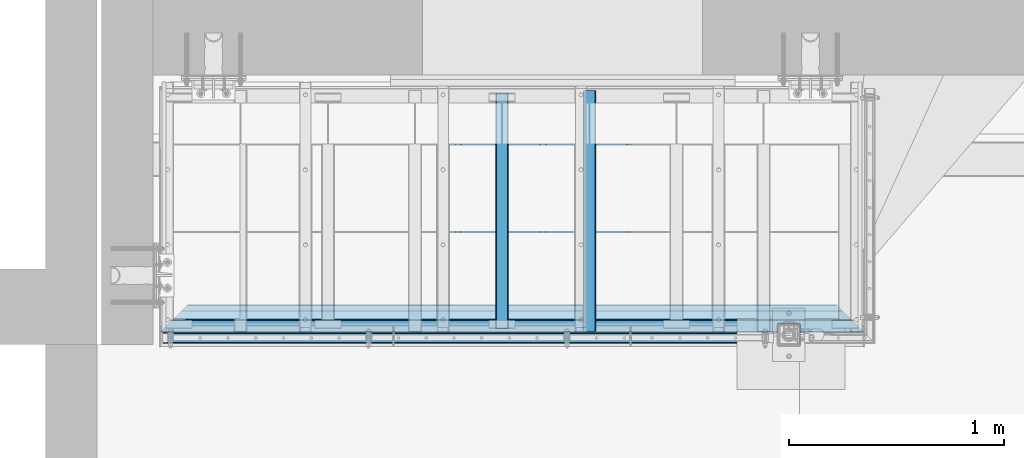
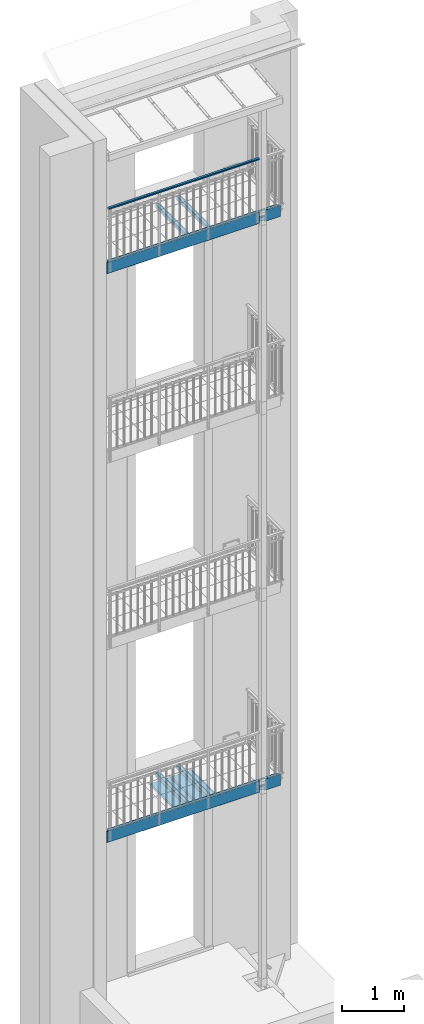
# One storey, part 41 of 162: 9 beams, 28 openings.
"""IFC2X3 building model written with IfcOpenShell, lengths in millimetres."""

from ifc_helpers import new_model, entity, si_unit, converted_unit, point, frame, frame_2d, origin, origin_with_axes, origin_2d, place, context, project, spatial, polyline, circle_curve, line_curve, trimmed, segment, composite_curve, hollow_rectangle, circle, outline, extrude, clip, halfspace, material, element, save


model = new_model("IFC2X3")

# Units and contexts
model_context = context("Model", 3, precision=1e-09, world=origin_with_axes())
ifc_project = project(units=[si_unit("LENGTHUNIT", "METRE", prefix="MILLI"), si_unit("AREAUNIT", "SQUARE_METRE"), si_unit("VOLUMEUNIT", "CUBIC_METRE"), converted_unit("PLANEANGLEUNIT", "DEGREE", entity("IfcPlaneAngleMeasure", 0.01745329), si_unit("PLANEANGLEUNIT", "RADIAN"), dimensions=[0, 0, 0, 0, 0, 0, 0])], contexts=[model_context])

# Site, building, storey
site_placement = place(None, origin_with_axes())
site = spatial("IfcSite", under=ifc_project, at=site_placement, Name="Hermannstra?e 1a, 60318 Frankfurt", CompositionType="ELEMENT")
building_placement = place(site_placement, origin_with_axes())
building = spatial("IfcBuilding", under=site, at=building_placement, Name="Struktur 1", CompositionType="ELEMENT")
storey_placement = place(building_placement, origin_with_axes())
storey = spatial("IfcBuildingStorey", under=building, at=storey_placement, Name="Default Storey", CompositionType="ELEMENT", Elevation=0.0)

# Beam, openings
ifc_material_1 = material(Name="S235JR")
beam_1_placement = place(None, frame((2568.31036482, 1515.609373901, 16321.999), z_axis=(-1.0, 0.0, 0.0), x_axis=(0.0, 0.0, -1.0)))
beam_1 = element("IfcBeam", 1, at=beam_1_placement, inside=storey, material=ifc_material_1, Name="-", ObjectType="-", context=model_context, shape_type="SweptSolid", body=[
    extrude(hollow_rectangle(XDim=30.0, YDim=50.0, WallThickness=3.0, InnerFilletRadius=3.0, OuterFilletRadius=6.0, at=origin_2d()), origin(), (0.0, 0.0, -1.0), 2829.999),
])
opening_1_placement = place(beam_1_placement, frame((11.5, 0.0, -29.998), z_axis=(-1.0, 0.0, 0.0), x_axis=(0.0, -1.0, 0.0)))
element("IfcOpeningElement", 2, at=opening_1_placement, cuts=beam_1, ObjectType="Opening", context=model_context, shape_type="SweptSolid", body=[
    extrude(circle(Radius=5.001, at=frame_2d((0.0, -5.001), x_axis=(1.0, 0.0))), origin(), (0.0, 0.0, -1.0), 4.0),
])
opening_2_placement = place(beam_1_placement, frame((11.5, 0.0, -949.998), z_axis=(-1.0, 0.0, 0.0), x_axis=(0.0, -1.0, 0.0)))
element("IfcOpeningElement", 3, at=opening_2_placement, cuts=beam_1, ObjectType="Opening", context=model_context, shape_type="SweptSolid", body=[
    extrude(circle(Radius=5.001, at=frame_2d((0.0, -5.001), x_axis=(1.0, 0.0))), origin(), (0.0, 0.0, -1.0), 4.0),
])
opening_3_placement = place(beam_1_placement, frame((11.5, 0.0, -1869.998), z_axis=(-1.0, 0.0, 0.0), x_axis=(0.0, -1.0, 0.0)))
element("IfcOpeningElement", 4, at=opening_3_placement, cuts=beam_1, ObjectType="Opening", context=model_context, shape_type="SweptSolid", body=[
    extrude(circle(Radius=5.001, at=frame_2d((0.0, -5.001), x_axis=(1.0, 0.0))), origin(), (0.0, 0.0, -1.0), 4.0),
])
opening_4_placement = place(beam_1_placement, frame((11.5, 0.0, -2789.998), z_axis=(-1.0, 0.0, 0.0), x_axis=(0.0, -1.0, 0.0)))
element("IfcOpeningElement", 5, at=opening_4_placement, cuts=beam_1, ObjectType="Opening", context=model_context, shape_type="SweptSolid", body=[
    extrude(circle(Radius=5.001, at=frame_2d((0.0, -5.001), x_axis=(1.0, 0.0))), origin(), (0.0, 0.0, -1.0), 4.0),
])

ifc_material_2 = material(Name="S355JR")
beam_2_placement = place(None, frame((2176.002127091, 1605.609373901, 15121.999), z_axis=(1.0, 0.0, 0.0), x_axis=(0.0, 1.0, 0.0)))
beam_2 = element("IfcBeam", 6, at=beam_2_placement, inside=storey, material=ifc_material_2, Name="-", ObjectType="-", context=model_context, shape_type="Clipping", body=[
    clip(clip(extrude(outline(composite_curve([segment(trimmed(circle_curve(frame_2d((57.999999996, -107.999999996), x_axis=(1.0, 0.0)), 7.000000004), [point((58.0, -115.0))], [point((65.0, -108.0))], True, "CARTESIAN"), True, "CONTINUOUS"), segment(trimmed(line_curve((65.0, -108.0), (0.0, 1.0), 31.0), [point((65.0, -108.0))], [point((65.0, -77.0))], True, "CARTESIAN"), True, "CONTINUOUS"), segment(trimmed(circle_curve(frame_2d((57.999999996, -77.000000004), x_axis=(1.0, 0.0)), 7.000000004), [point((65.0, -77.0))], [point((58.0, -70.0))], True, "CARTESIAN"), True, "CONTINUOUS"), segment(trimmed(line_curve((58.0, -70.0), (-1.0, 0.0), 23.0), [point((58.0, -70.0))], [point((35.0, -70.0))], True, "CARTESIAN"), True, "CONTINUOUS"), segment(trimmed(line_curve((35.0, -70.0), (0.0, -1.0), 4.0), [point((35.0, -70.0))], [point((35.0, -74.0))], True, "CARTESIAN"), True, "CONTINUOUS"), segment(trimmed(line_curve((35.0, -74.0), (1.0, 0.0), 23.0), [point((35.0, -74.0))], [point((58.0, -74.0))], True, "CARTESIAN"), True, "CONTINUOUS"), segment(trimmed(circle_curve(frame_2d((57.999999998, -77.000000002), x_axis=(-1.0, 0.0)), 3.000000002), [point((58.0, -74.0))], [point((61.0, -77.0))], False, "CARTESIAN"), True, "CONTINUOUS"), segment(trimmed(line_curve((61.0, -77.0), (0.0, -1.0), 31.0), [point((61.0, -77.0))], [point((61.0, -108.0))], True, "CARTESIAN"), True, "CONTINUOUS"), segment(trimmed(circle_curve(frame_2d((57.999999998, -107.999999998), x_axis=(-1.0, 0.0)), 3.000000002), [point((61.0, -108.0))], [point((58.0, -111.0))], False, "CARTESIAN"), True, "CONTINUOUS"), segment(trimmed(line_curve((58.0, -111.0), (-1.0, 0.0), 116.0), [point((58.0, -111.0))], [point((-58.0, -111.0))], True, "CARTESIAN"), True, "CONTINUOUS"), segment(trimmed(circle_curve(frame_2d((-57.999999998, -107.999999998), x_axis=(-1.0, 0.0)), 3.000000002), [point((-58.0, -111.0))], [point((-61.0, -108.0))], False, "CARTESIAN"), True, "CONTINUOUS"), segment(trimmed(line_curve((-61.0, -108.0), (0.0, 1.0), 216.0), [point((-61.0, -108.0))], [point((-61.0, 108.0))], True, "CARTESIAN"), True, "CONTINUOUS"), segment(trimmed(circle_curve(frame_2d((-57.999999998, 107.999999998), x_axis=(-1.0, 0.0)), 3.000000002), [point((-61.0, 108.0))], [point((-58.0, 111.0))], False, "CARTESIAN"), True, "CONTINUOUS"), segment(trimmed(line_curve((-58.0, 111.0), (1.0, 0.0), 46.0), [point((-58.0, 111.0))], [point((-12.0, 111.0))], True, "CARTESIAN"), True, "CONTINUOUS"), segment(trimmed(circle_curve(frame_2d((-12.000000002, 107.999999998), x_axis=(-1.0, 0.0)), 3.000000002), [point((-12.0, 111.0))], [point((-9.0, 108.0))], False, "CARTESIAN"), True, "CONTINUOUS"), segment(trimmed(line_curve((-9.0, 108.0), (0.0, -1.0), 33.0), [point((-9.0, 108.0))], [point((-9.0, 75.0))], True, "CARTESIAN"), True, "CONTINUOUS"), segment(trimmed(line_curve((-9.0, 75.0), (1.0, 0.0), 4.0), [point((-9.0, 75.0))], [point((-5.0, 75.0))], True, "CARTESIAN"), True, "CONTINUOUS"), segment(trimmed(line_curve((-5.0, 75.0), (0.0, 1.0), 33.0), [point((-5.0, 75.0))], [point((-5.0, 108.0))], True, "CARTESIAN"), True, "CONTINUOUS"), segment(trimmed(circle_curve(frame_2d((-12.000000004, 107.999999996), x_axis=(1.0, 0.0)), 7.000000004), [point((-5.0, 108.0))], [point((-12.0, 115.0))], True, "CARTESIAN"), True, "CONTINUOUS"), segment(trimmed(line_curve((-12.0, 115.0), (-1.0, 0.0), 46.0), [point((-12.0, 115.0))], [point((-58.0, 115.0))], True, "CARTESIAN"), True, "CONTINUOUS"), segment(trimmed(circle_curve(frame_2d((-57.999999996, 107.999999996), x_axis=(1.0, 0.0)), 7.000000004), [point((-58.0, 115.0))], [point((-65.0, 108.0))], True, "CARTESIAN"), True, "CONTINUOUS"), segment(trimmed(line_curve((-65.0, 108.0), (0.0, -1.0), 216.0), [point((-65.0, 108.0))], [point((-65.0, -108.0))], True, "CARTESIAN"), True, "CONTINUOUS"), segment(trimmed(circle_curve(frame_2d((-57.999999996, -107.999999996), x_axis=(1.0, 0.0)), 7.000000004), [point((-65.0, -108.0))], [point((-58.0, -115.0))], True, "CARTESIAN"), True, "CONTINUOUS"), segment(trimmed(line_curve((-58.0, -115.0), (1.0, 0.0), 116.0), [point((-58.0, -115.0))], [point((58.0, -115.0))], True, "CARTESIAN"), True, "CONTINUOUS")], self_intersect=False)), origin(), (0.0, 0.0, 1.0), 4024.614475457), halfspace(frame((-2111.960076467, -15121.999, -1669.651424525), z_axis=(-0.707106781, 0.0, 0.707106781), x_axis=(0.707106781, 0.0, 0.707106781)), True)), halfspace(frame((2076.349288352, -15121.999, 1505.956535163), z_axis=(-0.707106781, 0.0, -0.707106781), x_axis=(-0.707106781, 0.0, 0.707106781)), True)),
])
opening_5_placement = place(beam_2_placement, frame((-75.214581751, 215.1, 3643.306237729), z_axis=(0.0, 1.0, 0.0), x_axis=(0.0, 0.0, 1.0)))
element("IfcOpeningElement", 7, at=opening_5_placement, cuts=beam_2, ObjectType="Opening", context=model_context, shape_type="SweptSolid", body=[
    extrude(outline(polyline([(0.0, 0.0), (13.514993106, 0.0), (13.514993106, 17.024041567), (0.0, 17.024041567), (0.0, 0.0)])), origin(), (0.0, 0.0, -1.0), 430.2),
])
opening_6_placement = place(beam_2_placement, frame((-119.001, 215.1, 3246.306237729), z_axis=(0.0, 1.0, 0.0), x_axis=(-0.707106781, 0.0, 0.707106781)))
element("IfcOpeningElement", 8, at=opening_6_placement, cuts=beam_2, ObjectType="Opening", context=model_context, shape_type="SweptSolid", body=[
    extrude(outline(composite_curve([segment(trimmed(circle_curve(frame_2d((4.949747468, 4.949747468), x_axis=(1.0, 0.0)), 7.0), [point((0.0, 0.0))], [point((9.899494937, 0.0))], True, "CARTESIAN"), True, "CONTINUOUS"), segment(trimmed(line_curve((9.899494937, 0.0), (0.707106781, 0.707106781), 88.0), [point((9.899494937, 0.0))], [point((72.124891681, 62.225396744))], True, "CARTESIAN"), True, "CONTINUOUS"), segment(trimmed(circle_curve(frame_2d((67.175144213, 67.175144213), x_axis=(1.0, 0.0)), 7.0), [point((72.124891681, 62.225396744))], [point((72.124891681, 72.124891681))], True, "CARTESIAN"), True, "CONTINUOUS"), segment(trimmed(line_curve((72.124891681, 72.124891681), (-0.707106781, 0.707106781), 88.002), [point((72.124891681, 72.124891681))], [point((9.898080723, 134.351702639))], True, "CARTESIAN"), True, "CONTINUOUS"), segment(trimmed(circle_curve(frame_2d((4.948333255, 129.401955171), x_axis=(1.0, 0.0)), 7.0), [point((9.898080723, 134.351702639))], [point((-0.001414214, 134.351702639))], True, "CARTESIAN"), True, "CONTINUOUS"), segment(trimmed(line_curve((-0.001414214, 134.351702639), (-0.707106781, -0.707106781), 88.0), [point((-0.001414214, 134.351702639))], [point((-62.226810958, 72.126305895))], True, "CARTESIAN"), True, "CONTINUOUS"), segment(trimmed(circle_curve(frame_2d((-57.27706349, 67.176558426), x_axis=(1.0, 0.0)), 7.0), [point((-62.226810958, 72.126305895))], [point((-62.226810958, 62.226810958))], True, "CARTESIAN"), True, "CONTINUOUS"), segment(trimmed(line_curve((-62.226810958, 62.226810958), (0.707106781, -0.707106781), 88.002), [point((-62.226810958, 62.226810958))], [point((0.0, 0.0))], True, "CARTESIAN"), True, "CONTINUOUS")], self_intersect=False)), origin(), (0.0, 0.0, -1.0), 430.2),
])
opening_7_placement = place(beam_2_placement, frame((-66.702560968, 215.1, 374.550741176), z_axis=(0.0, -1.0, 0.0), x_axis=(0.0, 0.0, -1.0)))
element("IfcOpeningElement", 9, at=opening_7_placement, cuts=beam_2, ObjectType="Opening", context=model_context, shape_type="SweptSolid", body=[
    extrude(outline(polyline([(-6.757496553, -8.512020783), (6.757496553, -8.512020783), (6.757496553, 8.512020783), (-6.757496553, 8.512020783), (-6.757496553, -8.512020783)])), origin(), (0.0, 0.0, 1.0), 430.2),
])
opening_8_placement = place(beam_2_placement, frame((-13.0, -98.5, 3297.305553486), z_axis=(-1.0, 0.0, 0.0), x_axis=(0.0, 0.0, 1.0)))
element("IfcOpeningElement", 10, at=opening_8_placement, cuts=beam_2, ObjectType="Opening", context=model_context, shape_type="SweptSolid", body=[
    extrude(outline(composite_curve([segment(trimmed(circle_curve(frame_2d((-20.001, -29.501), x_axis=(1.0, 0.0)), 6.0), [point((-26.001, -29.501))], [point((-20.001, -35.501))], True, "CARTESIAN"), True, "CONTINUOUS"), segment(trimmed(line_curve((-20.001, -35.501), (1.0, 0.0), 40.002), [point((-20.001, -35.501))], [point((20.001, -35.501))], True, "CARTESIAN"), True, "CONTINUOUS"), segment(trimmed(circle_curve(frame_2d((20.001, -29.501), x_axis=(1.0, 0.0)), 6.0), [point((20.001, -35.501))], [point((26.001, -29.501))], True, "CARTESIAN"), True, "CONTINUOUS"), segment(trimmed(line_curve((26.001, -29.501), (0.0, 1.0), 59.002), [point((26.001, -29.501))], [point((26.001, 29.501))], True, "CARTESIAN"), True, "CONTINUOUS"), segment(trimmed(circle_curve(frame_2d((20.001, 29.501), x_axis=(1.0, 0.0)), 6.0), [point((26.001, 29.501))], [point((20.001, 35.501))], True, "CARTESIAN"), True, "CONTINUOUS"), segment(trimmed(line_curve((20.001, 35.501), (-1.0, 0.0), 40.002), [point((20.001, 35.501))], [point((-20.001, 35.501))], True, "CARTESIAN"), True, "CONTINUOUS"), segment(trimmed(circle_curve(frame_2d((-20.001, 29.501), x_axis=(1.0, 0.0)), 6.0), [point((-20.001, 35.501))], [point((-26.001, 29.501))], True, "CARTESIAN"), True, "CONTINUOUS"), segment(trimmed(line_curve((-26.001, 29.501), (0.0, -1.0), 59.002), [point((-26.001, 29.501))], [point((-26.001, -29.501))], True, "CARTESIAN"), True, "CONTINUOUS")], self_intersect=False)), origin(), (0.0, 0.0, 1.0), 152.1),
])
opening_9_placement = place(beam_2_placement, frame((-65.5, 55.0, 3180.306237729), z_axis=(-1.0, 0.0, 0.0), x_axis=(0.0, -1.0, 0.0)))
element("IfcOpeningElement", 11, at=opening_9_placement, cuts=beam_2, ObjectType="Opening", context=model_context, shape_type="SweptSolid", body=[
    extrude(circle(Radius=7.001, at=frame_2d((0.0, 7.001), x_axis=(1.0, 0.0))), origin(), (0.0, 0.0, -1.0), 5.0),
])
opening_10_placement = place(beam_2_placement, frame((-65.5, -25.0, 3180.306237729), z_axis=(-1.0, 0.0, 0.0), x_axis=(0.0, -1.0, 0.0)))
element("IfcOpeningElement", 12, at=opening_10_placement, cuts=beam_2, ObjectType="Opening", context=model_context, shape_type="SweptSolid", body=[
    extrude(circle(Radius=7.001, at=frame_2d((0.0, 7.001), x_axis=(1.0, 0.0))), origin(), (0.0, 0.0, -1.0), 5.0),
])
opening_11_placement = place(beam_2_placement, frame((-65.5, 55.0, 2260.306237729), z_axis=(-1.0, 0.0, 0.0), x_axis=(0.0, -1.0, 0.0)))
element("IfcOpeningElement", 13, at=opening_11_placement, cuts=beam_2, ObjectType="Opening", context=model_context, shape_type="SweptSolid", body=[
    extrude(circle(Radius=7.001, at=frame_2d((0.0, 7.001), x_axis=(1.0, 0.0))), origin(), (0.0, 0.0, -1.0), 5.0),
])
opening_12_placement = place(beam_2_placement, frame((-65.5, -25.0, 2260.306237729), z_axis=(-1.0, 0.0, 0.0), x_axis=(0.0, -1.0, 0.0)))
element("IfcOpeningElement", 14, at=opening_12_placement, cuts=beam_2, ObjectType="Opening", context=model_context, shape_type="SweptSolid", body=[
    extrude(circle(Radius=7.001, at=frame_2d((0.0, 7.001), x_axis=(1.0, 0.0))), origin(), (0.0, 0.0, -1.0), 5.0),
])
opening_13_placement = place(beam_2_placement, frame((-65.5, 55.0, 1340.306237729), z_axis=(-1.0, 0.0, 0.0), x_axis=(0.0, -1.0, 0.0)))
element("IfcOpeningElement", 15, at=opening_13_placement, cuts=beam_2, ObjectType="Opening", context=model_context, shape_type="SweptSolid", body=[
    extrude(circle(Radius=7.001, at=frame_2d((0.0, 7.001), x_axis=(1.0, 0.0))), origin(), (0.0, 0.0, -1.0), 5.0),
])
opening_14_placement = place(beam_2_placement, frame((-65.5, -25.0, 1340.306237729), z_axis=(-1.0, 0.0, 0.0), x_axis=(0.0, -1.0, 0.0)))
element("IfcOpeningElement", 16, at=opening_14_placement, cuts=beam_2, ObjectType="Opening", context=model_context, shape_type="SweptSolid", body=[
    extrude(circle(Radius=7.001, at=frame_2d((0.0, 7.001), x_axis=(1.0, 0.0))), origin(), (0.0, 0.0, -1.0), 5.0),
])
opening_15_placement = place(beam_2_placement, frame((-65.5, 55.0, 420.306237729), z_axis=(-1.0, 0.0, 0.0), x_axis=(0.0, -1.0, 0.0)))
element("IfcOpeningElement", 17, at=opening_15_placement, cuts=beam_2, ObjectType="Opening", context=model_context, shape_type="SweptSolid", body=[
    extrude(circle(Radius=7.001, at=frame_2d((0.0, 7.001), x_axis=(1.0, 0.0))), origin(), (0.0, 0.0, -1.0), 5.0),
])
opening_16_placement = place(beam_2_placement, frame((-65.5, -25.0, 420.306237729), z_axis=(-1.0, 0.0, 0.0), x_axis=(0.0, -1.0, 0.0)))
element("IfcOpeningElement", 18, at=opening_16_placement, cuts=beam_2, ObjectType="Opening", context=model_context, shape_type="SweptSolid", body=[
    extrude(circle(Radius=7.001, at=frame_2d((0.0, 7.001), x_axis=(1.0, 0.0))), origin(), (0.0, 0.0, -1.0), 5.0),
])

# Beams
beam_3_placement = place(None, frame((4547.05936482, 1546.109373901, 15141.999), z_axis=(0.0, 1.0, 0.0), x_axis=(-1.0, 0.0, 0.0)))
element("IfcBeam", 19, at=beam_3_placement, inside=storey, material=ifc_material_1, Name="-", ObjectType="-", context=model_context, shape_type="SweptSolid", body=[
    extrude(hollow_rectangle(XDim=60.0, YDim=80.0, WallThickness=4.0, InnerFilletRadius=4.0, OuterFilletRadius=8.0, at=origin_2d()), origin(), (0.0, 0.0, 1.0), 1119.0),
])
beam_4_placement = place(None, frame((4142.55936482, 1559.609373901, 15141.999), z_axis=(0.0, 1.0, 0.0), x_axis=(-1.0, 0.0, 0.0)))
element("IfcBeam", 20, at=beam_4_placement, inside=storey, material=ifc_material_1, Name="-", ObjectType="-", context=model_context, shape_type="SweptSolid", body=[
    extrude(hollow_rectangle(XDim=60.0, YDim=80.0, WallThickness=4.0, InnerFilletRadius=4.0, OuterFilletRadius=8.0, at=origin_2d()), origin(), (0.0, 0.0, 1.0), 1092.0),
])
beam_5_placement = place(None, frame((4547.05936482, 1546.109373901, 3860.0), z_axis=(0.0, 1.0, 0.0), x_axis=(-1.0, 0.0, 0.0)))
element("IfcBeam", 21, at=beam_5_placement, inside=storey, material=ifc_material_1, Name="-", ObjectType="-", context=model_context, shape_type="SweptSolid", body=[
    extrude(hollow_rectangle(XDim=60.0, YDim=80.0, WallThickness=4.0, InnerFilletRadius=4.0, OuterFilletRadius=8.0, at=origin_2d()), origin(), (0.0, 0.0, 1.0), 1119.0),
])
beam_6_placement = place(None, frame((4142.55936482, 1559.609373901, 3860.0), z_axis=(0.0, 1.0, 0.0), x_axis=(-1.0, 0.0, 0.0)))
element("IfcBeam", 22, at=beam_6_placement, inside=storey, material=ifc_material_1, Name="-", ObjectType="-", context=model_context, shape_type="SweptSolid", body=[
    extrude(hollow_rectangle(XDim=60.0, YDim=80.0, WallThickness=4.0, InnerFilletRadius=4.0, OuterFilletRadius=8.0, at=origin_2d()), origin(), (0.0, 0.0, 1.0), 1092.0),
])
ifc_material_3 = material(Name="Alu")
for number, where, z_axis, x_axis in (
    (23, (4344.80936482, 1625.609373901, 3770.0), (0.0, -1.0, 0.0), (1.0, 0.0, 0.0)),
    (24, (4740.80936482, 1625.609373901, 3770.0), (0.0, -1.0, 0.0), (1.0, 0.0, 0.0)),
):
    element("IfcBeam", number, at=place(None, frame(where, z_axis=z_axis, x_axis=x_axis)), inside=storey, material=ifc_material_3, Name="-", ObjectType="-", context=model_context, shape_type="SweptSolid", body=[
        extrude(outline(polyline([(-421.449159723, 31.122617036), (-396.0, 34.699263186), (-396.0, 0.0), (0.0, 0.0), (0.0, 34.0), (-17.824825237, 31.494884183), (-17.546479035, 29.514348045), (-2.0, 31.699263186), (-2.0, 2.0), (-394.0, 2.0), (-394.0, 37.0), (-421.727505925, 33.103153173), (-421.449159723, 31.122617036)])), origin(), (0.0, 0.0, -1.0), 960.0),
    ])

# Beam, openings
beam_7_placement = place(None, frame((2176.002127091, 1605.609373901, 3840.0), z_axis=(1.0, 0.0, 0.0), x_axis=(0.0, 1.0, 0.0)))
beam_7 = element("IfcBeam", 25, at=beam_7_placement, inside=storey, material=ifc_material_2, Name="-", ObjectType="-", context=model_context, shape_type="Clipping", body=[
    clip(clip(extrude(outline(composite_curve([segment(trimmed(circle_curve(frame_2d((57.999999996, -107.999999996), x_axis=(1.0, 0.0)), 7.000000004), [point((58.0, -115.0))], [point((65.0, -108.0))], True, "CARTESIAN"), True, "CONTINUOUS"), segment(trimmed(line_curve((65.0, -108.0), (0.0, 1.0), 31.0), [point((65.0, -108.0))], [point((65.0, -77.0))], True, "CARTESIAN"), True, "CONTINUOUS"), segment(trimmed(circle_curve(frame_2d((57.999999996, -77.000000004), x_axis=(1.0, 0.0)), 7.000000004), [point((65.0, -77.0))], [point((58.0, -70.0))], True, "CARTESIAN"), True, "CONTINUOUS"), segment(trimmed(line_curve((58.0, -70.0), (-1.0, 0.0), 23.0), [point((58.0, -70.0))], [point((35.0, -70.0))], True, "CARTESIAN"), True, "CONTINUOUS"), segment(trimmed(line_curve((35.0, -70.0), (0.0, -1.0), 4.0), [point((35.0, -70.0))], [point((35.0, -74.0))], True, "CARTESIAN"), True, "CONTINUOUS"), segment(trimmed(line_curve((35.0, -74.0), (1.0, 0.0), 23.0), [point((35.0, -74.0))], [point((58.0, -74.0))], True, "CARTESIAN"), True, "CONTINUOUS"), segment(trimmed(circle_curve(frame_2d((57.999999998, -77.000000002), x_axis=(-1.0, 0.0)), 3.000000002), [point((58.0, -74.0))], [point((61.0, -77.0))], False, "CARTESIAN"), True, "CONTINUOUS"), segment(trimmed(line_curve((61.0, -77.0), (0.0, -1.0), 31.0), [point((61.0, -77.0))], [point((61.0, -108.0))], True, "CARTESIAN"), True, "CONTINUOUS"), segment(trimmed(circle_curve(frame_2d((57.999999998, -107.999999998), x_axis=(-1.0, 0.0)), 3.000000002), [point((61.0, -108.0))], [point((58.0, -111.0))], False, "CARTESIAN"), True, "CONTINUOUS"), segment(trimmed(line_curve((58.0, -111.0), (-1.0, 0.0), 116.0), [point((58.0, -111.0))], [point((-58.0, -111.0))], True, "CARTESIAN"), True, "CONTINUOUS"), segment(trimmed(circle_curve(frame_2d((-57.999999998, -107.999999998), x_axis=(-1.0, 0.0)), 3.000000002), [point((-58.0, -111.0))], [point((-61.0, -108.0))], False, "CARTESIAN"), True, "CONTINUOUS"), segment(trimmed(line_curve((-61.0, -108.0), (0.0, 1.0), 216.0), [point((-61.0, -108.0))], [point((-61.0, 108.0))], True, "CARTESIAN"), True, "CONTINUOUS"), segment(trimmed(circle_curve(frame_2d((-57.999999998, 107.999999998), x_axis=(-1.0, 0.0)), 3.000000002), [point((-61.0, 108.0))], [point((-58.0, 111.0))], False, "CARTESIAN"), True, "CONTINUOUS"), segment(trimmed(line_curve((-58.0, 111.0), (1.0, 0.0), 46.0), [point((-58.0, 111.0))], [point((-12.0, 111.0))], True, "CARTESIAN"), True, "CONTINUOUS"), segment(trimmed(circle_curve(frame_2d((-12.000000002, 107.999999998), x_axis=(-1.0, 0.0)), 3.000000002), [point((-12.0, 111.0))], [point((-9.0, 108.0))], False, "CARTESIAN"), True, "CONTINUOUS"), segment(trimmed(line_curve((-9.0, 108.0), (0.0, -1.0), 33.0), [point((-9.0, 108.0))], [point((-9.0, 75.0))], True, "CARTESIAN"), True, "CONTINUOUS"), segment(trimmed(line_curve((-9.0, 75.0), (1.0, 0.0), 4.0), [point((-9.0, 75.0))], [point((-5.0, 75.0))], True, "CARTESIAN"), True, "CONTINUOUS"), segment(trimmed(line_curve((-5.0, 75.0), (0.0, 1.0), 33.0), [point((-5.0, 75.0))], [point((-5.0, 108.0))], True, "CARTESIAN"), True, "CONTINUOUS"), segment(trimmed(circle_curve(frame_2d((-12.000000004, 107.999999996), x_axis=(1.0, 0.0)), 7.000000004), [point((-5.0, 108.0))], [point((-12.0, 115.0))], True, "CARTESIAN"), True, "CONTINUOUS"), segment(trimmed(line_curve((-12.0, 115.0), (-1.0, 0.0), 46.0), [point((-12.0, 115.0))], [point((-58.0, 115.0))], True, "CARTESIAN"), True, "CONTINUOUS"), segment(trimmed(circle_curve(frame_2d((-57.999999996, 107.999999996), x_axis=(1.0, 0.0)), 7.000000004), [point((-58.0, 115.0))], [point((-65.0, 108.0))], True, "CARTESIAN"), True, "CONTINUOUS"), segment(trimmed(line_curve((-65.0, 108.0), (0.0, -1.0), 216.0), [point((-65.0, 108.0))], [point((-65.0, -108.0))], True, "CARTESIAN"), True, "CONTINUOUS"), segment(trimmed(circle_curve(frame_2d((-57.999999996, -107.999999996), x_axis=(1.0, 0.0)), 7.000000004), [point((-65.0, -108.0))], [point((-58.0, -115.0))], True, "CARTESIAN"), True, "CONTINUOUS"), segment(trimmed(line_curve((-58.0, -115.0), (1.0, 0.0), 116.0), [point((-58.0, -115.0))], [point((58.0, -115.0))], True, "CARTESIAN"), True, "CONTINUOUS")], self_intersect=False)), origin(), (0.0, 0.0, 1.0), 4024.614475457), halfspace(frame((-2111.960076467, -3840.0, -1669.651424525), z_axis=(-0.707106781, 0.0, 0.707106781), x_axis=(0.707106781, 0.0, 0.707106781)), True)), halfspace(frame((2076.349288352, -3840.0, 1505.956535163), z_axis=(-0.707106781, 0.0, -0.707106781), x_axis=(-0.707106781, 0.0, 0.707106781)), True)),
])
opening_17_placement = place(beam_7_placement, frame((-75.214581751, 215.1, 3643.306237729), z_axis=(0.0, 1.0, 0.0), x_axis=(0.0, 0.0, 1.0)))
element("IfcOpeningElement", 26, at=opening_17_placement, cuts=beam_7, ObjectType="Opening", context=model_context, shape_type="SweptSolid", body=[
    extrude(outline(polyline([(0.0, 0.0), (13.514993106, 0.0), (13.514993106, 17.024041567), (0.0, 17.024041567), (0.0, 0.0)])), origin(), (0.0, 0.0, -1.0), 430.2),
])
opening_18_placement = place(beam_7_placement, frame((-119.001, 215.1, 3246.306237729), z_axis=(0.0, 1.0, 0.0), x_axis=(-0.707106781, 0.0, 0.707106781)))
element("IfcOpeningElement", 27, at=opening_18_placement, cuts=beam_7, ObjectType="Opening", context=model_context, shape_type="SweptSolid", body=[
    extrude(outline(composite_curve([segment(trimmed(circle_curve(frame_2d((4.949747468, 4.949747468), x_axis=(1.0, 0.0)), 7.0), [point((0.0, 0.0))], [point((9.899494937, 0.0))], True, "CARTESIAN"), True, "CONTINUOUS"), segment(trimmed(line_curve((9.899494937, 0.0), (0.707106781, 0.707106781), 88.0), [point((9.899494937, 0.0))], [point((72.124891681, 62.225396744))], True, "CARTESIAN"), True, "CONTINUOUS"), segment(trimmed(circle_curve(frame_2d((67.175144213, 67.175144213), x_axis=(1.0, 0.0)), 7.0), [point((72.124891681, 62.225396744))], [point((72.124891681, 72.124891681))], True, "CARTESIAN"), True, "CONTINUOUS"), segment(trimmed(line_curve((72.124891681, 72.124891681), (-0.707106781, 0.707106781), 88.002), [point((72.124891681, 72.124891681))], [point((9.898080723, 134.351702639))], True, "CARTESIAN"), True, "CONTINUOUS"), segment(trimmed(circle_curve(frame_2d((4.948333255, 129.401955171), x_axis=(1.0, 0.0)), 7.0), [point((9.898080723, 134.351702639))], [point((-0.001414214, 134.351702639))], True, "CARTESIAN"), True, "CONTINUOUS"), segment(trimmed(line_curve((-0.001414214, 134.351702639), (-0.707106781, -0.707106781), 88.0), [point((-0.001414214, 134.351702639))], [point((-62.226810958, 72.126305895))], True, "CARTESIAN"), True, "CONTINUOUS"), segment(trimmed(circle_curve(frame_2d((-57.27706349, 67.176558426), x_axis=(1.0, 0.0)), 7.0), [point((-62.226810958, 72.126305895))], [point((-62.226810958, 62.226810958))], True, "CARTESIAN"), True, "CONTINUOUS"), segment(trimmed(line_curve((-62.226810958, 62.226810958), (0.707106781, -0.707106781), 88.002), [point((-62.226810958, 62.226810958))], [point((0.0, 0.0))], True, "CARTESIAN"), True, "CONTINUOUS")], self_intersect=False)), origin(), (0.0, 0.0, -1.0), 430.2),
])
opening_19_placement = place(beam_7_placement, frame((-66.702560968, 215.1, 374.550741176), z_axis=(0.0, -1.0, 0.0), x_axis=(0.0, 0.0, -1.0)))
element("IfcOpeningElement", 28, at=opening_19_placement, cuts=beam_7, ObjectType="Opening", context=model_context, shape_type="SweptSolid", body=[
    extrude(outline(polyline([(-6.757496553, -8.512020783), (6.757496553, -8.512020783), (6.757496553, 8.512020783), (-6.757496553, 8.512020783), (-6.757496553, -8.512020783)])), origin(), (0.0, 0.0, 1.0), 430.2),
])
opening_20_placement = place(beam_7_placement, frame((-13.0, -98.5, 3297.305553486), z_axis=(-1.0, 0.0, 0.0), x_axis=(0.0, 0.0, 1.0)))
element("IfcOpeningElement", 29, at=opening_20_placement, cuts=beam_7, ObjectType="Opening", context=model_context, shape_type="SweptSolid", body=[
    extrude(outline(composite_curve([segment(trimmed(circle_curve(frame_2d((-20.001, -29.501), x_axis=(1.0, 0.0)), 6.0), [point((-26.001, -29.501))], [point((-20.001, -35.501))], True, "CARTESIAN"), True, "CONTINUOUS"), segment(trimmed(line_curve((-20.001, -35.501), (1.0, 0.0), 40.002), [point((-20.001, -35.501))], [point((20.001, -35.501))], True, "CARTESIAN"), True, "CONTINUOUS"), segment(trimmed(circle_curve(frame_2d((20.001, -29.501), x_axis=(1.0, 0.0)), 6.0), [point((20.001, -35.501))], [point((26.001, -29.501))], True, "CARTESIAN"), True, "CONTINUOUS"), segment(trimmed(line_curve((26.001, -29.501), (0.0, 1.0), 59.002), [point((26.001, -29.501))], [point((26.001, 29.501))], True, "CARTESIAN"), True, "CONTINUOUS"), segment(trimmed(circle_curve(frame_2d((20.001, 29.501), x_axis=(1.0, 0.0)), 6.0), [point((26.001, 29.501))], [point((20.001, 35.501))], True, "CARTESIAN"), True, "CONTINUOUS"), segment(trimmed(line_curve((20.001, 35.501), (-1.0, 0.0), 40.002), [point((20.001, 35.501))], [point((-20.001, 35.501))], True, "CARTESIAN"), True, "CONTINUOUS"), segment(trimmed(circle_curve(frame_2d((-20.001, 29.501), x_axis=(1.0, 0.0)), 6.0), [point((-20.001, 35.501))], [point((-26.001, 29.501))], True, "CARTESIAN"), True, "CONTINUOUS"), segment(trimmed(line_curve((-26.001, 29.501), (0.0, -1.0), 59.002), [point((-26.001, 29.501))], [point((-26.001, -29.501))], True, "CARTESIAN"), True, "CONTINUOUS")], self_intersect=False)), origin(), (0.0, 0.0, 1.0), 152.1),
])
opening_21_placement = place(beam_7_placement, frame((-65.5, 55.0, 420.306237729), z_axis=(-1.0, 0.0, 0.0), x_axis=(0.0, -1.0, 0.0)))
element("IfcOpeningElement", 30, at=opening_21_placement, cuts=beam_7, ObjectType="Opening", context=model_context, shape_type="SweptSolid", body=[
    extrude(circle(Radius=7.001, at=frame_2d((0.0, 7.001), x_axis=(1.0, 0.0))), origin(), (0.0, 0.0, -1.0), 5.0),
])
opening_22_placement = place(beam_7_placement, frame((-65.5, -25.0, 420.306237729), z_axis=(-1.0, 0.0, 0.0), x_axis=(0.0, -1.0, 0.0)))
element("IfcOpeningElement", 31, at=opening_22_placement, cuts=beam_7, ObjectType="Opening", context=model_context, shape_type="SweptSolid", body=[
    extrude(circle(Radius=7.001, at=frame_2d((0.0, 7.001), x_axis=(1.0, 0.0))), origin(), (0.0, 0.0, -1.0), 5.0),
])
opening_23_placement = place(beam_7_placement, frame((-65.5, 55.0, 3180.306237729), z_axis=(-1.0, 0.0, 0.0), x_axis=(0.0, -1.0, 0.0)))
element("IfcOpeningElement", 32, at=opening_23_placement, cuts=beam_7, ObjectType="Opening", context=model_context, shape_type="SweptSolid", body=[
    extrude(circle(Radius=7.001, at=frame_2d((0.0, 7.001), x_axis=(1.0, 0.0))), origin(), (0.0, 0.0, -1.0), 5.0),
])
opening_24_placement = place(beam_7_placement, frame((-65.5, -25.0, 3180.306237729), z_axis=(-1.0, 0.0, 0.0), x_axis=(0.0, -1.0, 0.0)))
element("IfcOpeningElement", 33, at=opening_24_placement, cuts=beam_7, ObjectType="Opening", context=model_context, shape_type="SweptSolid", body=[
    extrude(circle(Radius=7.001, at=frame_2d((0.0, 7.001), x_axis=(1.0, 0.0))), origin(), (0.0, 0.0, -1.0), 5.0),
])
opening_25_placement = place(beam_7_placement, frame((-65.5, 55.0, 2260.306237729), z_axis=(-1.0, 0.0, 0.0), x_axis=(0.0, -1.0, 0.0)))
element("IfcOpeningElement", 34, at=opening_25_placement, cuts=beam_7, ObjectType="Opening", context=model_context, shape_type="SweptSolid", body=[
    extrude(circle(Radius=7.001, at=frame_2d((0.0, 7.001), x_axis=(1.0, 0.0))), origin(), (0.0, 0.0, -1.0), 5.0),
])
opening_26_placement = place(beam_7_placement, frame((-65.5, -25.0, 2260.306237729), z_axis=(-1.0, 0.0, 0.0), x_axis=(0.0, -1.0, 0.0)))
element("IfcOpeningElement", 35, at=opening_26_placement, cuts=beam_7, ObjectType="Opening", context=model_context, shape_type="SweptSolid", body=[
    extrude(circle(Radius=7.001, at=frame_2d((0.0, 7.001), x_axis=(1.0, 0.0))), origin(), (0.0, 0.0, -1.0), 5.0),
])
opening_27_placement = place(beam_7_placement, frame((-65.5, 55.0, 1340.306237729), z_axis=(-1.0, 0.0, 0.0), x_axis=(0.0, -1.0, 0.0)))
element("IfcOpeningElement", 36, at=opening_27_placement, cuts=beam_7, ObjectType="Opening", context=model_context, shape_type="SweptSolid", body=[
    extrude(circle(Radius=7.001, at=frame_2d((0.0, 7.001), x_axis=(1.0, 0.0))), origin(), (0.0, 0.0, -1.0), 5.0),
])
opening_28_placement = place(beam_7_placement, frame((-65.5, -25.0, 1340.306237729), z_axis=(-1.0, 0.0, 0.0), x_axis=(0.0, -1.0, 0.0)))
element("IfcOpeningElement", 37, at=opening_28_placement, cuts=beam_7, ObjectType="Opening", context=model_context, shape_type="SweptSolid", body=[
    extrude(circle(Radius=7.001, at=frame_2d((0.0, 7.001), x_axis=(1.0, 0.0))), origin(), (0.0, 0.0, -1.0), 5.0),
])

save(model, "model.ifc")
